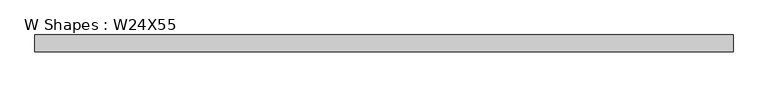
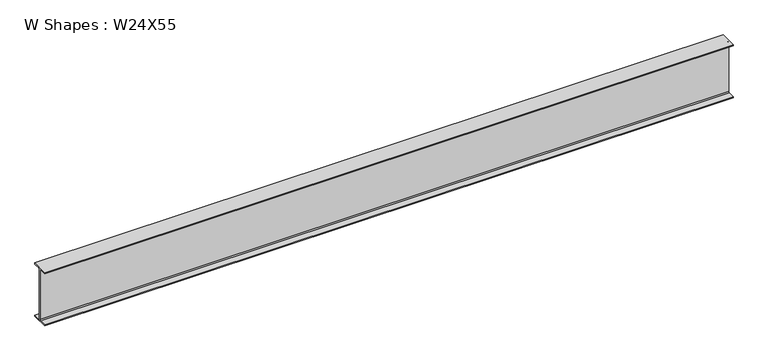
"""IFC4 building model written with IfcOpenShell, lengths in millimetres: beam geometry, W Shapes : W24X55."""

from ifc_helpers import new_model, si_unit, point, frame, frame_2d, origin, place, context, project, spatial, polyline, circle_curve, trimmed, segment, composite_curve, outline, extrude, source, transform, mapped, element, save


def w_shapes_w24x55_664a4076(model_context):
    return source(origin(), model_context, "Body", "SweptSolid", [
        extrude(outline(composite_curve([segment(polyline([(89.027, -286.893), (89.027, -299.72), (-89.027, -299.72), (-89.027, -286.893), (-17.8435, -286.893)]), True, "CONTINUOUS"), segment(trimmed(circle_curve(frame_2d((-17.8435, -274.066)), 12.827), [point((-17.8435, -286.893))], [point((-5.0165, -274.066))], True, "CARTESIAN"), True, "CONTINUOUS"), segment(polyline([(-5.0165, -274.066), (-5.0165, 274.066)]), True, "CONTINUOUS"), segment(trimmed(circle_curve(frame_2d((-17.8435, 274.066)), 12.827), [point((-5.0165, 274.066))], [point((-17.8435, 286.893))], True, "CARTESIAN"), True, "CONTINUOUS"), segment(polyline([(-17.8435, 286.893), (-89.027, 286.893), (-89.027, 299.72), (89.027, 299.72), (89.027, 286.893), (17.8435, 286.893)]), True, "CONTINUOUS"), segment(trimmed(circle_curve(frame_2d((17.8435, 274.066)), 12.827), [point((17.8435, 286.893))], [point((5.0165, 274.066))], True, "CARTESIAN"), True, "CONTINUOUS"), segment(polyline([(5.0165, 274.066), (5.0165, -274.066)]), True, "CONTINUOUS"), segment(trimmed(circle_curve(frame_2d((17.8435, -274.066)), 12.827), [point((5.0165, -274.066))], [point((17.8435, -286.893))], True, "CARTESIAN"), True, "CONTINUOUS"), segment(polyline([(17.8435, -286.893), (89.027, -286.893)]), True, "CONTINUOUS")], self_intersect=False)), frame((-3654.985, 0.0, 0.0), z_axis=(1.0, 0.0, 0.0), x_axis=(0.0, 1.0, 0.0)), (0.0, 0.0, 1.0), 7309.97),
    ])


if __name__ == "__main__":
    model = new_model("IFC4")
    model_context = context("Model", 3, world=origin())
    ifc_project = project(units=[si_unit("LENGTHUNIT", "METRE", prefix="MILLI")], contexts=[model_context])
    site = spatial("IfcSite", under=ifc_project)
    building = spatial("IfcBuilding", under=site)
    placement = place(None, origin())
    w_shapes_w24x55_shape = w_shapes_w24x55_664a4076(model_context)
    element("IfcBeam", 1, ObjectType="W Shapes : W24X55", at=placement, inside=building, context=model_context, shape_type="MappedRepresentation", body=[
        mapped(w_shapes_w24x55_shape, transform((0.0, 0.0, 0.0), x_axis=(1.0, 0.0, 0.0), y_axis=(0.0, 1.0, 0.0), z_axis=(0.0, 0.0, 1.0))),
    ])
    save(model, "model.ifc")
